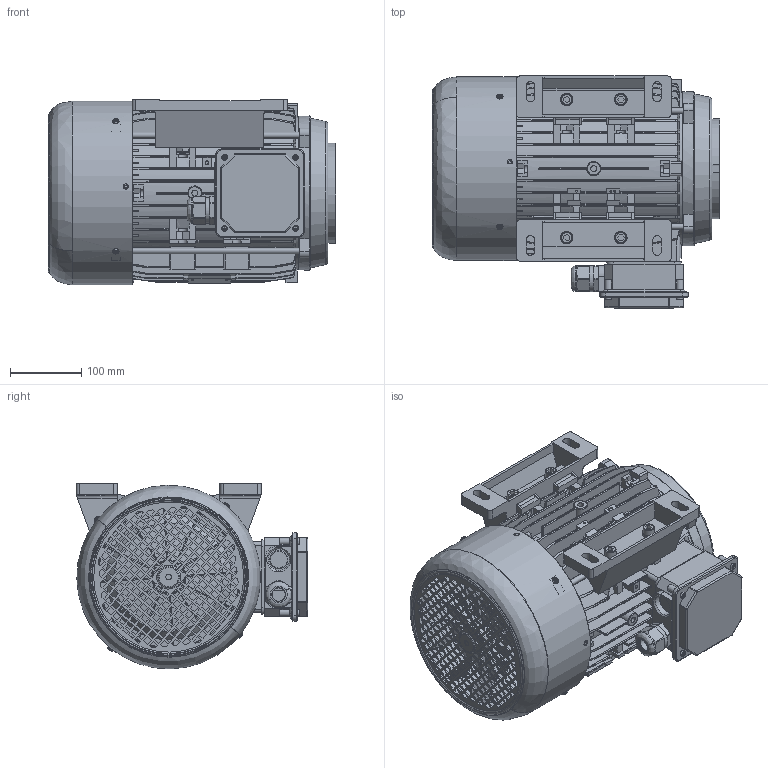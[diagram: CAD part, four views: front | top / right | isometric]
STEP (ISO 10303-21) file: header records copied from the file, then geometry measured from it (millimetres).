
FILE_DESCRIPTION(/* description */ (''),/* implementation_level */ '2;1');
FILE_NAME(/* name */ 'W:\Tecnico\Archivio\Dimensioni Pompe\3D Export\Motori\MRE132L-1DX.stp',/* time_stamp */ '2021-04-07T12:25:00+02:00',/* author */ ('marcop'),/* organization */ (''),/* preprocessor_version */ 'ST-DEVELOPER v17',/* originating_system */ 'Autodesk Inventor 2018',/* authorisation */ '');
FILE_SCHEMA (('AUTOMOTIVE_DESIGN { 1 0 10303 214 3 1 1 }'));
Products named in the file (1): 1182_m132l_att_100
Bounding box: 404 x 325.53 x 260.98 mm (x, y, z)
Volume: 5208539.4 mm3; surface area: 1834469 mm2
Topology: 40 solids, 40 shells, 4636 faces, 13154 edges, 8639 vertices
Faces by surface type: plane 2952, cylinder 931, cone 460, torus 235, bspline 34, sphere 24
Full cylindrical faces by diameter (mm): 2.3 x9, 2.5 x2, 3 x2, 4 x5, 4.134 x7, 4.3 x1, 4.6 x4, 4.8 x4, 4.917 x4, 5 x9, 5.8 x4, 6 x12, 6.5 x4, 6.647 x8, 8 x9, 8.376 x8, 9 x4, 10 x15, 16 x4, 18.5 x2, 24.5 x1, 26 x1, 30 x1, 32 x2, 36 x1, 36.5 x1, 38 x1, 39 x1, 40 x4, 41 x1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
Entity records: 162498 total; most frequent: CARTESIAN_POINT 37360, ORIENTED_EDGE 26228, DIRECTION 24064, EDGE_CURVE 13114, VERTEX_POINT 8635, LINE 8502, VECTOR 8502, AXIS2_PLACEMENT_3D 7781
